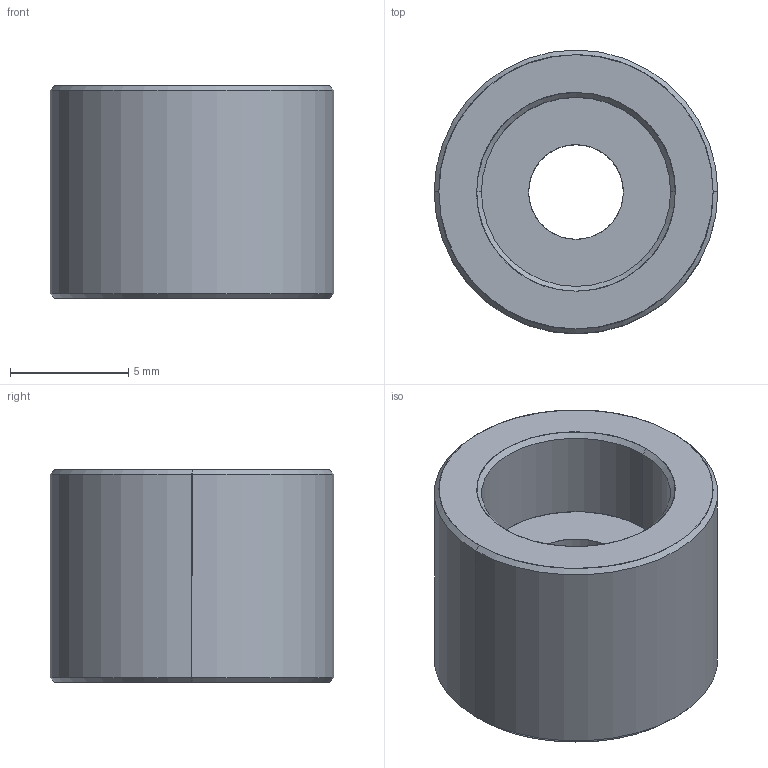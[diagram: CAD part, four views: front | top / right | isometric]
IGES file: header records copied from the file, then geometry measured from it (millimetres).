
Global section: file name: E:\UnigraphicsGraphicData\MISUMI_PRESS-PARTS\IGES\3d_j6.5_00096_r00.igs; native system: NX V5.0; preprocessor: UGS NX IGES V5.0; author: MISUMI; date: 20110105.161101; units: millimetre
Bounding box: 12 x 12 x 9 mm (x, y, z)
Surface area: 691.1 mm2 (no closed solid volume)
Topology: 0 solids, 0 shells, 17 faces, 104 edges, 104 vertices
Faces by surface type: bspline 17
